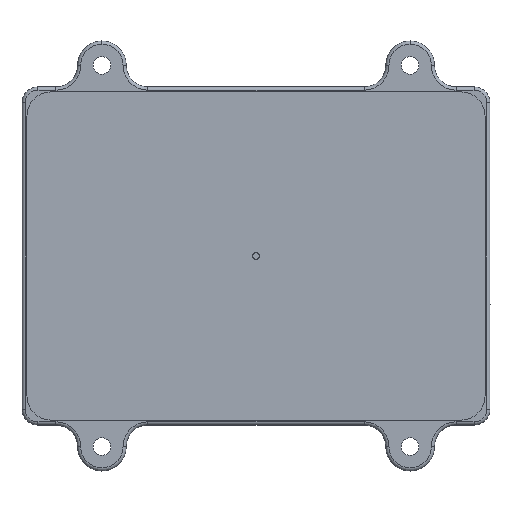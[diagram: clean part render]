
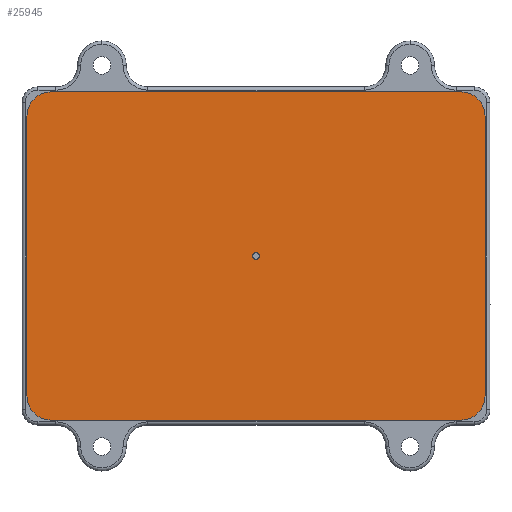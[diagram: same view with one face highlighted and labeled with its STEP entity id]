
A CAD part, front view. The second image highlights one B-rep face of the part: STEP entity #25945.
In plain terms, the highlighted planar face has unit normal (0, -1, 0).
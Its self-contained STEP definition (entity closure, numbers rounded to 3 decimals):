
#1593 = EDGE_CURVE ( 'NONE', #214422, #19242, #189653, .T. ) ;
#4737 = EDGE_LOOP ( 'NONE', ( #18118, #172557, #151157, #258648, #232271, #150093, #57277, #81254 ) ) ;
#4882 = AXIS2_PLACEMENT_3D ( 'NONE', #76071, #56381, #76950 ) ;
#6307 = CARTESIAN_POINT ( 'NONE',  ( 64.135, -9.605, -51.375 ) ) ;
#11905 = VECTOR ( 'NONE', #190902, 1000. ) ;
#13703 = DIRECTION ( 'NONE',  ( 1., 0., 0. ) ) ;
#15290 = CARTESIAN_POINT ( 'NONE',  ( 64.135, -9.605, 51.375 ) ) ;
#18118 = ORIENTED_EDGE ( 'NONE', *, *, #129504, .T. ) ;
#19242 = VERTEX_POINT ( 'NONE', #129977 ) ;
#25945 = ADVANCED_FACE ( 'NONE', ( #86170, #223174 ), #81932, .T. ) ;
#27832 = CARTESIAN_POINT ( 'NONE',  ( 64.135, -9.605, 51.375 ) ) ;
#29779 = DIRECTION ( 'NONE',  ( 0., 0., 1. ) ) ;
#33778 = AXIS2_PLACEMENT_3D ( 'NONE', #99633, #181543, #57717 ) ;
#37459 = VERTEX_POINT ( 'NONE', #74142 ) ;
#47265 = VECTOR ( 'NONE', #29779, 1000. ) ;
#48099 = DIRECTION ( 'NONE',  ( 1., 0., 0. ) ) ;
#50450 = CARTESIAN_POINT ( 'NONE',  ( -71.695, -9.605, -43.815 ) ) ;
#53997 = EDGE_CURVE ( 'NONE', #112447, #75329, #133055, .T. ) ;
#56381 = DIRECTION ( 'NONE',  ( 0., -1., 0. ) ) ;
#57277 = ORIENTED_EDGE ( 'NONE', *, *, #220940, .T. ) ;
#57717 = DIRECTION ( 'NONE',  ( 1., 0., 0. ) ) ;
#59711 = EDGE_CURVE ( 'NONE', #19242, #37459, #95092, .T. ) ;
#64013 = DIRECTION ( 'NONE',  ( 0., -1., 0. ) ) ;
#67013 = AXIS2_PLACEMENT_3D ( 'NONE', #264146, #176716, #13703 ) ;
#70588 = ORIENTED_EDGE ( 'NONE', *, *, #104428, .F. ) ;
#71410 = EDGE_CURVE ( 'NONE', #251342, #249500, #133253, .T. ) ;
#74142 = CARTESIAN_POINT ( 'NONE',  ( 71.695, -9.605, 43.815 ) ) ;
#75329 = VERTEX_POINT ( 'NONE', #96587 ) ;
#76071 = CARTESIAN_POINT ( 'NONE',  ( 64.135, -9.605, 43.815 ) ) ;
#76950 = DIRECTION ( 'NONE',  ( 1., 0., 0. ) ) ;
#81254 = ORIENTED_EDGE ( 'NONE', *, *, #217918, .T. ) ;
#81932 = PLANE ( 'NONE',  #201837 ) ;
#86170 = FACE_BOUND ( 'NONE', #89677, .T. ) ;
#89677 = EDGE_LOOP ( 'NONE', ( #70588, #108811 ) ) ;
#90405 = CARTESIAN_POINT ( 'NONE',  ( 71.695, -9.605, -43.815 ) ) ;
#94110 = DIRECTION ( 'NONE',  ( 0., 0., -1. ) ) ;
#95028 = CARTESIAN_POINT ( 'NONE',  ( -71.695, -9.605, 43.815 ) ) ;
#95092 = LINE ( 'NONE', #90405, #47265 ) ;
#96587 = CARTESIAN_POINT ( 'NONE',  ( -64.135, -9.605, 51.375 ) ) ;
#99633 = CARTESIAN_POINT ( 'NONE',  ( -64.135, -9.605, 43.815 ) ) ;
#99786 = CIRCLE ( 'NONE', #67013, 7.56 ) ;
#103334 = CARTESIAN_POINT ( 'NONE',  ( 64.135, -9.605, -43.815 ) ) ;
#104428 = EDGE_CURVE ( 'NONE', #249500, #251342, #218719, .T. ) ;
#108811 = ORIENTED_EDGE ( 'NONE', *, *, #71410, .F. ) ;
#112447 = VERTEX_POINT ( 'NONE', #15290 ) ;
#116302 = CARTESIAN_POINT ( 'NONE',  ( 0., -9.605, 0. ) ) ;
#120099 = VECTOR ( 'NONE', #48099, 1000. ) ;
#129504 = EDGE_CURVE ( 'NONE', #180463, #214422, #263558, .T. ) ;
#129797 = EDGE_CURVE ( 'NONE', #75329, #189382, #202876, .T. ) ;
#129977 = CARTESIAN_POINT ( 'NONE',  ( 71.695, -9.605, -43.815 ) ) ;
#133055 = LINE ( 'NONE', #27832, #11905 ) ;
#133253 = CIRCLE ( 'NONE', #219724, 1. ) ;
#141666 = EDGE_CURVE ( 'NONE', #37459, #112447, #212518, .T. ) ;
#147504 = CARTESIAN_POINT ( 'NONE',  ( -64.135, -9.605, -51.375 ) ) ;
#148167 = CARTESIAN_POINT ( 'NONE',  ( -71.695, -9.605, -43.815 ) ) ;
#150093 = ORIENTED_EDGE ( 'NONE', *, *, #129797, .T. ) ;
#150651 = AXIS2_PLACEMENT_3D ( 'NONE', #193221, #213675, #174432 ) ;
#151157 = ORIENTED_EDGE ( 'NONE', *, *, #59711, .T. ) ;
#152210 = CARTESIAN_POINT ( 'NONE',  ( 64.135, -9.605, -51.375 ) ) ;
#152396 = LINE ( 'NONE', #50450, #245126 ) ;
#156274 = DIRECTION ( 'NONE',  ( 1., 0., 0. ) ) ;
#159279 = DIRECTION ( 'NONE',  ( 0., -1., 0. ) ) ;
#165924 = AXIS2_PLACEMENT_3D ( 'NONE', #116302, #236624, #156274 ) ;
#167449 = VERTEX_POINT ( 'NONE', #148167 ) ;
#172557 = ORIENTED_EDGE ( 'NONE', *, *, #1593, .T. ) ;
#174432 = DIRECTION ( 'NONE',  ( 1., 0., 0. ) ) ;
#176716 = DIRECTION ( 'NONE',  ( 0., -1., 0. ) ) ;
#180463 = VERTEX_POINT ( 'NONE', #147504 ) ;
#181543 = DIRECTION ( 'NONE',  ( 0., -1., 0. ) ) ;
#186989 = DIRECTION ( 'NONE',  ( 1., 0., 0. ) ) ;
#189382 = VERTEX_POINT ( 'NONE', #95028 ) ;
#189653 = CIRCLE ( 'NONE', #150651, 7.56 ) ;
#190902 = DIRECTION ( 'NONE',  ( -1., 0., 0. ) ) ;
#193221 = CARTESIAN_POINT ( 'NONE',  ( 64.135, -9.605, -43.815 ) ) ;
#201837 = AXIS2_PLACEMENT_3D ( 'NONE', #103334, #64013, #186989 ) ;
#202876 = CIRCLE ( 'NONE', #33778, 7.56 ) ;
#212518 = CIRCLE ( 'NONE', #4882, 7.56 ) ;
#213675 = DIRECTION ( 'NONE',  ( 0., -1., 0. ) ) ;
#214422 = VERTEX_POINT ( 'NONE', #6307 ) ;
#217311 = CARTESIAN_POINT ( 'NONE',  ( -1., -9.605, 0. ) ) ;
#217918 = EDGE_CURVE ( 'NONE', #167449, #180463, #99786, .T. ) ;
#218719 = CIRCLE ( 'NONE', #165924, 1. ) ;
#219724 = AXIS2_PLACEMENT_3D ( 'NONE', #258354, #159279, #219935 ) ;
#219935 = DIRECTION ( 'NONE',  ( 1., 0., 0. ) ) ;
#220940 = EDGE_CURVE ( 'NONE', #189382, #167449, #152396, .T. ) ;
#223174 = FACE_OUTER_BOUND ( 'NONE', #4737, .T. ) ;
#228361 = CARTESIAN_POINT ( 'NONE',  ( 1., -9.605, 0. ) ) ;
#232271 = ORIENTED_EDGE ( 'NONE', *, *, #53997, .T. ) ;
#236624 = DIRECTION ( 'NONE',  ( 0., -1., 0. ) ) ;
#245126 = VECTOR ( 'NONE', #94110, 1000. ) ;
#249500 = VERTEX_POINT ( 'NONE', #228361 ) ;
#251342 = VERTEX_POINT ( 'NONE', #217311 ) ;
#258354 = CARTESIAN_POINT ( 'NONE',  ( 0., -9.605, 0. ) ) ;
#258648 = ORIENTED_EDGE ( 'NONE', *, *, #141666, .T. ) ;
#263558 = LINE ( 'NONE', #152210, #120099 ) ;
#264146 = CARTESIAN_POINT ( 'NONE',  ( -64.135, -9.605, -43.815 ) ) ;
